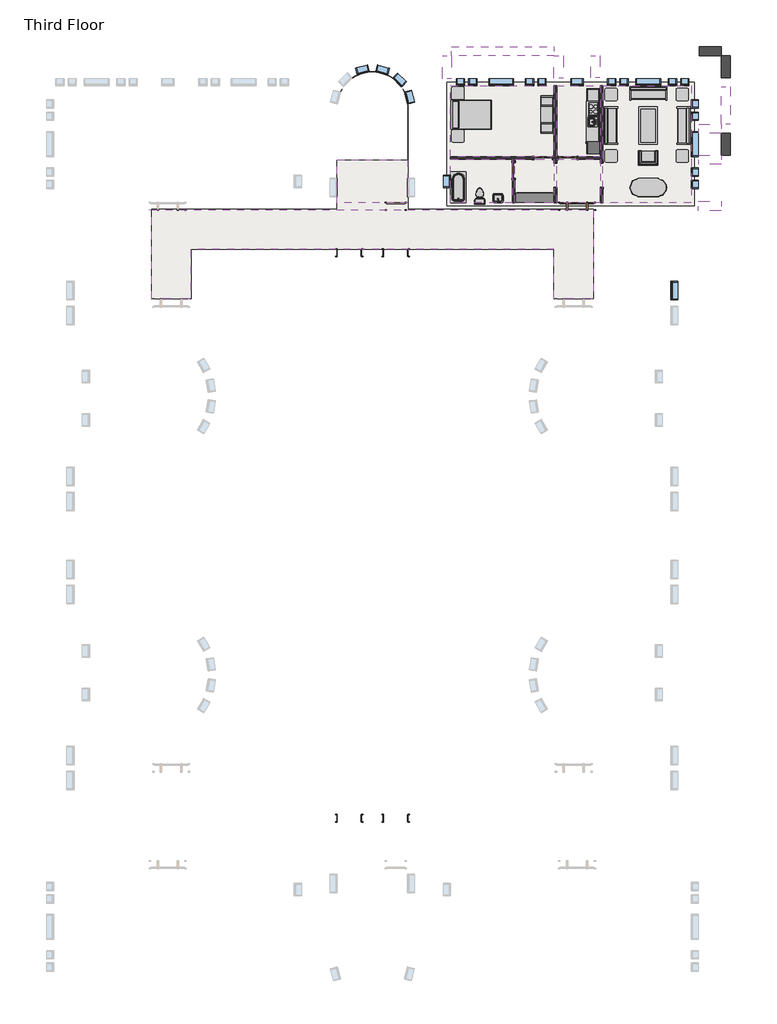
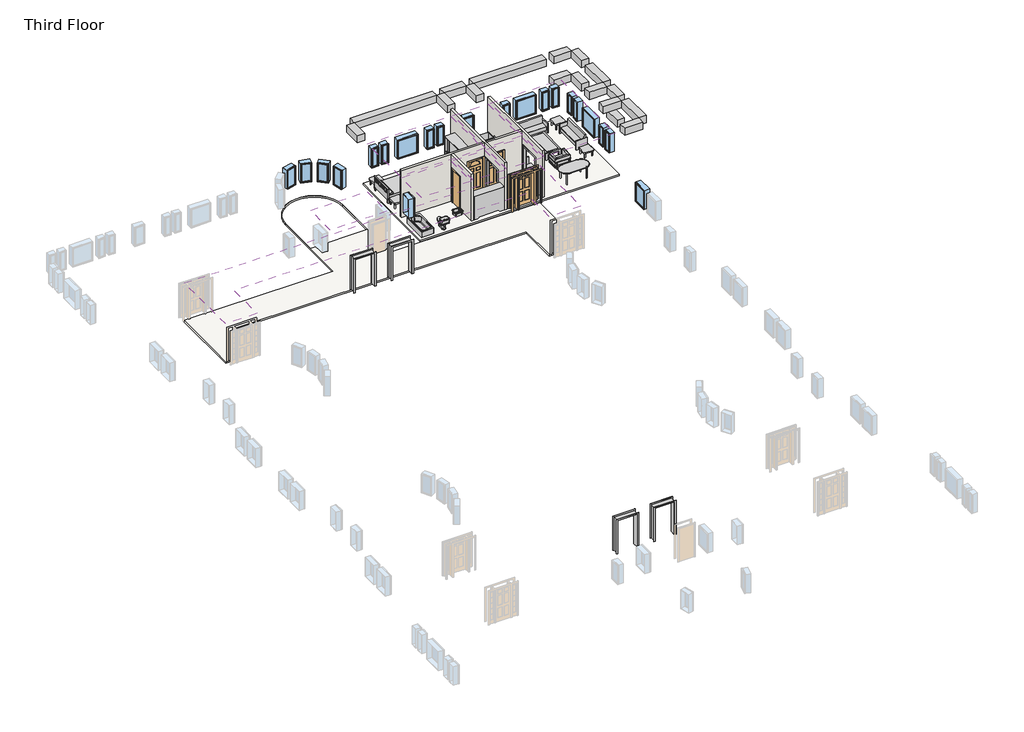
# One storey, part 2 of 2: 22 windows, 15 furniture elements, 11 beams, 8 coverings, 7 proxies, 5 walls, 4 doors, 3 flow terminals, 2 slabs.
"""IFC4 building model written with IfcOpenShell, lengths in millimetres."""

from ifc_helpers import new_model, si_unit, point, frame, frame_2d, origin, place, context, project, spatial, polyline, circle_curve, trimmed, segment, composite_curve, outline, extrude, faceted_brep, transform, mapped, element, save
from components import proxy_64a468c4, proxy_f44482cc, proxy_c3589814, proxy_1659ed5c, door_829da954, door_2e3b4da2, door_4d6c7550, door_dba5aa2e, flow_terminal_0aeb31e3, toilet_domestic_3d_toilet_domestic_3d_f7549cf7, toilet_domestic_3d_toilet_domestic_3d_183bbd19, tub_rectangular_3d_tub_rectangular_3d_5e45a89b, furniture_096e7f55, chair_corbu_chair_corbu_2764bdef, furniture_7c473f12, furniture_ddc78764, furniture_4ef38d96, furniture_cd93a443, furniture_2c34a4f9, furniture_3a588284, furniture_1befe2a2, window_da97879f, window_d61ef850, window_60baf983, window_0e2fc6ce, window_6eb97611

model = new_model("IFC4")

# Units and contexts
model_context = context("Model", 3, world=origin())
ifc_project = project(units=[si_unit("LENGTHUNIT", "METRE", prefix="MILLI")], contexts=[model_context])

# Site, building, storey
site = spatial("IfcSite", under=ifc_project)
building = spatial("IfcBuilding", under=site)
storey = spatial("IfcBuildingStorey", under=building, Name="Third Floor", Elevation=6096.0)

# Beams
placement = place(None, origin())
element("IfcBeam", 1, ObjectType="Concrete-Rectangular Beam : 18 x 18", at=placement, inside=storey, context=model_context, shape_type="SweptSolid", body=[
    extrude(outline(polyline([(2093.9410437, 12198.8316867), (2093.9410437, 11741.6316867), (1027.1410437, 11741.6316867), (1027.1410437, 12198.8316867), (2093.9410437, 12198.8316867)])), frame((0.0, 0.0, 8686.8), z_axis=(0.0, 0.0, 1.0), x_axis=(1.0, 0.0, 0.0)), (0.0, 0.0, 1.0), 457.2),
    extrude(outline(polyline([(569.9410437, 12198.8316867), (569.9410437, 11741.6316867), (-3862.3589563, 11741.6316867), (-3862.3589563, 12198.8316867), (569.9410437, 12198.8316867)])), frame((0.0, 0.0, 8686.8), z_axis=(0.0, 0.0, 1.0), x_axis=(1.0, 0.0, 0.0)), (0.0, 0.0, 1.0), 457.2),
    extrude(outline(polyline([(-5665.7589563, 11741.6316867), (-5665.7589563, 12198.8316867), (-4319.5589563, 12198.8316867), (-4319.5589563, 11741.6316867), (-5665.7589563, 11741.6316867)])), frame((0.0, 0.0, 8686.8), z_axis=(0.0, 0.0, 1.0), x_axis=(1.0, 0.0, 0.0)), (0.0, 0.0, 1.0), 457.2),
    extrude(outline(polyline([(-6122.9589563, 12198.8316867), (-6122.9589563, 11741.6316867), (-11164.8589563, 11741.6316867), (-11164.8589563, 12198.8316867), (-6122.9589563, 12198.8316867)])), frame((0.0, 0.0, 8686.8), z_axis=(0.0, 0.0, 1.0), x_axis=(1.0, 0.0, 0.0)), (0.0, 0.0, 1.0), 457.2),
])
element("IfcBeam", 2, ObjectType="Concrete-Rectangular Beam : 18 x 18", at=placement, inside=storey, context=model_context, shape_type="SweptSolid", body=[
    extrude(outline(polyline([(2093.9410437, 11741.6316867), (2551.1410437, 11741.6316867), (2551.1410437, 10674.8316867), (2093.9410437, 10674.8316867), (2093.9410437, 11741.6316867)])), frame((0.0, 0.0, 8686.8), z_axis=(0.0, 0.0, 1.0), x_axis=(1.0, 0.0, 0.0)), (0.0, 0.0, 1.0), 457.2),
    extrude(outline(polyline([(2551.1410437, 4578.8316867), (2093.9410437, 4578.8316867), (2093.9410437, 6407.6316867), (2551.1410437, 6407.6316867), (2551.1410437, 4578.8316867)])), frame((0.0, 0.0, 8686.8), z_axis=(0.0, 0.0, 1.0), x_axis=(1.0, 0.0, 0.0)), (0.0, 0.0, 1.0), 457.2),
    extrude(outline(polyline([(2551.1410437, 6864.8316867), (2093.9410437, 6864.8316867), (2093.9410437, 7931.6316867), (2551.1410437, 7931.6316867), (2551.1410437, 6864.8316867)])), frame((0.0, 0.0, 8686.8), z_axis=(0.0, 0.0, 1.0), x_axis=(1.0, 0.0, 0.0)), (0.0, 0.0, 1.0), 457.2),
    extrude(outline(polyline([(2093.9410437, 10217.6316867), (2551.1410437, 10217.6316867), (2551.1410437, 8388.8316867), (2093.9410437, 8388.8316867), (2093.9410437, 10217.6316867)])), frame((0.0, 0.0, 8686.8), z_axis=(0.0, 0.0, 1.0), x_axis=(1.0, 0.0, 0.0)), (0.0, 0.0, 1.0), 457.2),
])
element("IfcBeam", 3, ObjectType="Concrete-Rectangular Beam : 18 x 18", at=placement, inside=storey, context=model_context, shape_type="SweptSolid", body=[
    extrude(outline(polyline([(2093.9410437, 12198.8316867), (2093.9410437, 11741.6316867), (1027.1410437, 11741.6316867), (1027.1410437, 12198.8316867), (2093.9410437, 12198.8316867)])), frame((0.0, 0.0, 7162.8), z_axis=(0.0, 0.0, 1.0), x_axis=(1.0, 0.0, 0.0)), (0.0, 0.0, 1.0), 457.2),
])
element("IfcBeam", 4, ObjectType="Concrete-Rectangular Beam : 18 x 18", at=placement, inside=storey, context=model_context, shape_type="SweptSolid", body=[
    extrude(outline(polyline([(2551.1410437, 10674.8316867), (2093.9410437, 10674.8316867), (2093.9410437, 11741.6316867), (2551.1410437, 11741.6316867), (2551.1410437, 10674.8316867)])), frame((0.0, 0.0, 7162.8), z_axis=(0.0, 0.0, 1.0), x_axis=(1.0, 0.0, 0.0)), (0.0, 0.0, 1.0), 457.2),
])
element("IfcBeam", 5, ObjectType="Concrete-Rectangular Beam : 18 x 18", at=placement, inside=storey, context=model_context, shape_type="SweptSolid", body=[
    extrude(outline(polyline([(-11164.8589563, 10624.0316867), (-11622.0589563, 10624.0316867), (-11622.0589563, 11741.6316867), (-11164.8589563, 11741.6316867), (-11164.8589563, 10624.0316867)])), frame((0.0, 0.0, 8686.8), z_axis=(0.0, 0.0, 1.0), x_axis=(1.0, 0.0, 0.0)), (0.0, 0.0, 1.0), 457.2),
])
element("IfcBeam", 6, ObjectType="Concrete-Rectangular Beam : 18 x 18", at=placement, inside=storey, context=model_context, shape_type="SweptSolid", body=[
    extrude(outline(polyline([(-5665.7589563, 10643.0816867), (-6122.9589563, 10643.0816867), (-6122.9589563, 11741.6316867), (-5665.7589563, 11741.6316867), (-5665.7589563, 10643.0816867)])), frame((0.0, 0.0, 8686.8), z_axis=(0.0, 0.0, 1.0), x_axis=(1.0, 0.0, 0.0)), (0.0, 0.0, 1.0), 457.2),
])
element("IfcBeam", 7, ObjectType="Concrete-Rectangular Beam : 18 x 18", at=placement, inside=storey, context=model_context, shape_type="SweptSolid", body=[
    extrude(outline(polyline([(1001.7410437, 6407.6316867), (1001.7410437, 6864.8316867), (2093.9410437, 6864.8316867), (2093.9410437, 6407.6316867), (1001.7410437, 6407.6316867)])), frame((0.0, 0.0, 8686.8), z_axis=(0.0, 0.0, 1.0), x_axis=(1.0, 0.0, 0.0)), (0.0, 0.0, 1.0), 457.2),
])
element("IfcBeam", 8, ObjectType="Concrete-Rectangular Beam : 18 x 18", at=placement, inside=storey, context=model_context, shape_type="SweptSolid", body=[
    extrude(outline(polyline([(-3862.3589563, 10674.8316867), (-4319.5589563, 10674.8316867), (-4319.5589563, 11741.6316867), (-3862.3589563, 11741.6316867), (-3862.3589563, 10674.8316867)])), frame((0.0, 0.0, 8686.8), z_axis=(0.0, 0.0, 1.0), x_axis=(1.0, 0.0, 0.0)), (0.0, 0.0, 1.0), 457.2),
])
element("IfcBeam", 9, ObjectType="Concrete-Rectangular Beam : 18 x 18", at=placement, inside=storey, context=model_context, shape_type="SweptSolid", body=[
    extrude(outline(polyline([(1001.7410437, 7931.6316867), (1001.7410437, 8388.8316867), (2093.9410437, 8388.8316867), (2093.9410437, 7931.6316867), (1001.7410437, 7931.6316867)])), frame((0.0, 0.0, 8686.8), z_axis=(0.0, 0.0, 1.0), x_axis=(1.0, 0.0, 0.0)), (0.0, 0.0, 1.0), 457.2),
])
element("IfcBeam", 10, ObjectType="Concrete-Rectangular Beam : 18 x 18", at=placement, inside=storey, context=model_context, shape_type="SweptSolid", body=[
    extrude(outline(polyline([(976.3410437, 4121.6316867), (976.3410437, 4578.8316867), (2093.9410437, 4578.8316867), (2093.9410437, 4121.6316867), (976.3410437, 4121.6316867)])), frame((0.0, 0.0, 8686.8), z_axis=(0.0, 0.0, 1.0), x_axis=(1.0, 0.0, 0.0)), (0.0, 0.0, 1.0), 457.2),
])
element("IfcBeam", 11, ObjectType="Concrete-Rectangular Beam : 18 x 18", at=placement, inside=storey, context=model_context, shape_type="SweptSolid", body=[
    extrude(outline(polyline([(2551.1410437, 6864.8316867), (2093.9410437, 6864.8316867), (2093.9410437, 7931.6316867), (2551.1410437, 7931.6316867), (2551.1410437, 6864.8316867)])), frame((0.0, 0.0, 7162.8), z_axis=(0.0, 0.0, 1.0), x_axis=(1.0, 0.0, 0.0)), (0.0, 0.0, 1.0), 457.2),
])

# Proxies
proxy_shape = proxy_64a468c4(model_context)
element("IfcBuildingElementProxy", 12, Name="Kitchenette - Medium : 8'6\"", ObjectType="Kitchenette - Medium : 8'6\"", at=placement, inside=storey, context=model_context, shape_type="MappedRepresentation", body=[
    mapped(proxy_shape, transform((-3887.7589563, 8837.7956433, 6096.0), x_axis=(0.0, -1.0, 0.0), y_axis=(1.0, 0.0, 0.0), z_axis=(0.0, 0.0, 1.0))),
])
proxy_2_shape = proxy_f44482cc(model_context)
element("IfcBuildingElementProxy", 13, Name="Opening-Cased : 48\" x 84\"", ObjectType="Opening-Cased : 48\" x 84\"", at=placement, inside=storey, context=model_context, shape_type="MappedRepresentation", body=[
    mapped(proxy_2_shape, transform((-3773.4589563, 5882.4203434, 6096.0), x_axis=(0.0, 1.0, 0.0), y_axis=(-1.0, 0.0, 0.0), z_axis=(0.0, 0.0, 1.0))),
])
element("IfcBuildingElementProxy", 14, Name="Opening-Cased : 48\" x 84\"", ObjectType="Opening-Cased : 48\" x 84\"", at=placement, inside=storey, context=model_context, shape_type="MappedRepresentation", body=[
    mapped(proxy_2_shape, transform((-6059.4589563, 5866.04303, 6096.0), x_axis=(0.0, -1.0, 0.0), y_axis=(1.0, 0.0, 0.0), z_axis=(0.0, 0.0, 1.0))),
])
proxy_3_shape = proxy_c3589814(model_context)
element("IfcBuildingElementProxy", 15, Name="Opening-Cased : 48\" x 84\"", ObjectType="Opening-Cased : 48\" x 84\"", at=placement, inside=storey, context=model_context, shape_type="MappedRepresentation", body=[
    mapped(proxy_3_shape, transform((-16213.360113, 2064.2316867, 6096.0), x_axis=(-1.0, 0.0, 0.0), y_axis=(0.0, -1.0, 0.0), z_axis=(0.0, 0.0, 1.0))),
])
element("IfcBuildingElementProxy", 16, Name="Opening-Cased : 48\" x 84\"", ObjectType="Opening-Cased : 48\" x 84\"", at=placement, inside=storey, context=model_context, shape_type="MappedRepresentation", body=[
    mapped(proxy_3_shape, transform((-13927.360113, 2064.2316867, 6096.0), x_axis=(-1.0, 0.0, 0.0), y_axis=(0.0, -1.0, 0.0), z_axis=(0.0, 0.0, 1.0))),
])
proxy_4_shape = proxy_1659ed5c(model_context)
element("IfcBuildingElementProxy", 17, Name="Opening-Cased : 48\" x 84\"", ObjectType="Opening-Cased : 48\" x 84\"", at=placement, inside=storey, context=model_context, shape_type="MappedRepresentation", body=[
    mapped(proxy_4_shape, transform((-16213.360113, -25755.1183133, 6096.0), x_axis=(-1.0, 0.0, 0.0), y_axis=(0.0, -1.0, 0.0), z_axis=(0.0, 0.0, 1.0))),
])
element("IfcBuildingElementProxy", 18, Name="Opening-Cased : 48\" x 84\"", ObjectType="Opening-Cased : 48\" x 84\"", at=placement, inside=storey, context=model_context, shape_type="MappedRepresentation", body=[
    mapped(proxy_4_shape, transform((-13927.360113, -25755.1183133, 6096.0), x_axis=(-1.0, 0.0, 0.0), y_axis=(0.0, -1.0, 0.0), z_axis=(0.0, 0.0, 1.0))),
])

# Coverings
element("IfcCovering", 19, ObjectType="GWB on Mtl. Stud", at=placement, inside=storey, context=model_context, shape_type="SweptSolid", body=[
    extrude(outline(polyline([(-11217.2464563, 10270.0191867), (-6122.9589563, 10270.0191867), (-6122.9589563, 6787.0441867), (-11217.2464563, 6787.0441867), (-11217.2464563, 10270.0191867)])), frame((0.0, 0.0, 8686.8), z_axis=(0.0, 0.0, 1.0), x_axis=(1.0, 0.0, 0.0)), (0.0, 0.0, 1.0), 107.95),
])
element("IfcCovering", 20, ObjectType="GWB on Mtl. Stud", at=placement, inside=storey, context=model_context, shape_type="SweptSolid", body=[
    extrude(outline(polyline([(-5995.9589563, 6787.0441867), (-5995.9589563, 10270.0191867), (-3836.9589563, 10270.0191867), (-3836.9589563, 6787.0441867), (-5995.9589563, 6787.0441867)])), frame((0.0, 0.0, 8686.8), z_axis=(0.0, 0.0, 1.0), x_axis=(1.0, 0.0, 0.0)), (0.0, 0.0, 1.0), 107.95),
])
element("IfcCovering", 21, ObjectType="GWB on Mtl. Stud", at=placement, inside=storey, context=model_context, shape_type="SweptSolid", body=[
    extrude(outline(polyline([(-3709.9589563, 4526.4441867), (-3709.9589563, 10270.0191867), (622.3285437, 10270.0191867), (622.3285437, 4526.4441867), (-3709.9589563, 4526.4441867)])), frame((0.0, 0.0, 8686.8), z_axis=(0.0, 0.0, 1.0), x_axis=(1.0, 0.0, 0.0)), (0.0, 0.0, 1.0), 107.95),
])
element("IfcCovering", 22, ObjectType="GWB on Mtl. Stud", at=placement, inside=storey, context=model_context, shape_type="SweptSolid", body=[
    extrude(outline(polyline([(-3836.9589563, 4526.4441867), (-5995.9589563, 4526.4441867), (-5995.9589563, 6660.0441867), (-3836.9589563, 6660.0441867), (-3836.9589563, 4526.4441867)])), frame((0.0, 0.0, 8686.8), z_axis=(0.0, 0.0, 1.0), x_axis=(1.0, 0.0, 0.0)), (0.0, 0.0, 1.0), 107.95),
])
element("IfcCovering", 23, ObjectType="GWB on Mtl. Stud", at=placement, inside=storey, context=model_context, shape_type="SweptSolid", body=[
    extrude(outline(polyline([(-6122.9589563, 4526.4441867), (-8042.2464563, 4526.4441867), (-8042.2464563, 6660.0441867), (-6122.9589563, 6660.0441867), (-6122.9589563, 4526.4441867)])), frame((0.0, 0.0, 8686.8), z_axis=(0.0, 0.0, 1.0), x_axis=(1.0, 0.0, 0.0)), (0.0, 0.0, 1.0), 107.95),
])
element("IfcCovering", 24, ObjectType="GWB on Mtl. Stud", at=placement, inside=storey, context=model_context, shape_type="SweptSolid", body=[
    extrude(outline(polyline([(-8169.2464563, 6660.0441867), (-8169.2464563, 4526.4441867), (-11217.2464563, 4526.4441867), (-11217.2464563, 6660.0441867), (-8169.2464563, 6660.0441867)])), frame((0.0, 0.0, 8686.8), z_axis=(0.0, 0.0, 1.0), x_axis=(1.0, 0.0, 0.0)), (0.0, 0.0, 1.0), 107.95),
])
element("IfcCovering", 25, ObjectType="GWB on Mtl. Stud", at=placement, inside=storey, context=model_context, shape_type="SweptSolid", body=[
    extrude(outline(polyline([(-13333.3839563, 4526.4441867), (-16790.9589563, 4526.4441867), (-16790.9589563, 6636.2316867), (-13333.3839563, 6636.2316867), (-13333.3839563, 4526.4441867)])), frame((0.0, 0.0, 8534.4), z_axis=(0.0, 0.0, 1.0), x_axis=(1.0, 0.0, 0.0)), (0.0, 0.0, 1.0), 107.95),
])
element("IfcCovering", 26, ObjectType="GWB on Mtl. Stud", at=placement, inside=storey, context=model_context, shape_type="SweptSolid", body=[
    extrude(outline(polyline([(-6122.9589563, -197.9558133), (-6122.9589563, 2240.4441867), (-24001.3839563, 2240.4441867), (-24001.3839563, -197.9558133), (-25934.9589563, -197.9558133), (-25934.9589563, 4174.0191867), (-4189.3839563, 4174.0191867), (-4189.3839563, -197.9558133), (-6122.9589563, -197.9558133)])), frame((0.0, 0.0, 8534.4), z_axis=(0.0, 0.0, 1.0), x_axis=(1.0, 0.0, 0.0)), (0.0, 0.0, 1.0), 107.95),
])

# Doors
door_shape = door_829da954(model_context)
element("IfcDoor", 27, ObjectType="Single-Decorative 2 : 36\" x 84\"", at=placement, inside=storey, context=model_context, shape_type="MappedRepresentation", body=[
    mapped(door_shape, transform((-5449.8589563, 6723.5441867, 6096.0), x_axis=(-1.0, 0.0, 0.0), y_axis=(0.0, -1.0, 0.0), z_axis=(0.0, 0.0, 1.0))),
])
door_2_shape = door_2e3b4da2(model_context)
element("IfcDoor", 28, ObjectType="Single-Decorative 2 : 36\" x 84\"", at=placement, inside=storey, context=model_context, shape_type="MappedRepresentation", body=[
    mapped(door_2_shape, transform((-6669.0589563, 6723.5441867, 6096.0), x_axis=(1.0, 0.0, 0.0), y_axis=(0.0, 1.0, 0.0), z_axis=(0.0, 0.0, 1.0))),
])
door_3_shape = door_4d6c7550(model_context)
element("IfcDoor", 29, ObjectType="Single-Flush : 30\" x 84\"", at=placement, inside=storey, context=model_context, shape_type="MappedRepresentation", body=[
    mapped(door_3_shape, transform((-8105.7464563, 6113.9441867, 6096.0), x_axis=(0.0, 1.0, 0.0), y_axis=(-1.0, 0.0, 0.0), z_axis=(0.0, 0.0, 1.0))),
])
door_4_shape = door_dba5aa2e(model_context)
element("IfcDoor", 30, ObjectType="Single-Raised Panel with Sidelights : 36\" x 84\"", at=placement, inside=storey, context=model_context, shape_type="MappedRepresentation", body=[
    mapped(door_4_shape, transform((-4992.6589563, 4350.2316867, 6096.0), x_axis=(-1.0, 0.0, 0.0), y_axis=(0.0, -1.0, 0.0), z_axis=(0.0, 0.0, 1.0))),
])

# Flow terminals
flow_terminal_shape = flow_terminal_0aeb31e3(model_context)
element("IfcFlowTerminal", 31, ObjectType="Sink Vanity-Square : 24\" x 19\"", at=placement, inside=storey, context=model_context, shape_type="MappedRepresentation", body=[
    mapped(flow_terminal_shape, transform((-8864.7572157, 4706.5895878, 6096.0), x_axis=(-1.0, 0.0, 0.0), y_axis=(0.0, -1.0, 0.0), z_axis=(0.0, 0.0, 1.0))),
])
toilet_domestic_3d_toilet_domestic_3d_shape = toilet_domestic_3d_toilet_domestic_3d_f7549cf7(model_context)
toilet_domestic_3d_toilet_domestic_3d_2_shape = toilet_domestic_3d_toilet_domestic_3d_183bbd19(model_context)
element("IfcFlowTerminal", 32, ObjectType="Toilet-Domestic-3D : Toilet-Domestic-3D", at=placement, inside=storey, context=model_context, shape_type="MappedRepresentation", body=[
    mapped(toilet_domestic_3d_toilet_domestic_3d_shape, transform((-9782.1466587, 4940.866411, 6096.0), x_axis=(-1.0000000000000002, 0.0, 0.0), y_axis=(0.0, -1.0000000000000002, 0.0), z_axis=(0.0, 0.0, 1.0))),
    mapped(toilet_domestic_3d_toilet_domestic_3d_2_shape, transform((-9782.1466587, 4940.866411, 6096.0), x_axis=(-1.0000000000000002, 0.0, 0.0), y_axis=(0.0, -1.0000000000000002, 0.0), z_axis=(0.0, 0.0, 1.0))),
])
tub_rectangular_3d_tub_rectangular_3d_shape = tub_rectangular_3d_tub_rectangular_3d_5e45a89b(model_context)
element("IfcFlowTerminal", 33, ObjectType="Tub-Rectangular-3D : Tub-Rectangular-3D", at=placement, inside=storey, context=model_context, shape_type="MappedRepresentation", body=[
    mapped(tub_rectangular_3d_tub_rectangular_3d_shape, transform((-11393.4589563, 5637.0471554, 6096.0), x_axis=(0.0, 1.0, 0.0), y_axis=(-1.0, 0.0, 0.0), z_axis=(0.0, 0.0, 1.0))),
])

# Furniture
furniture_shape = furniture_096e7f55(model_context)
element("IfcFurniture", 34, ObjectType="Bed-Shaker : Double 56\" x 78\"", at=placement, inside=storey, context=model_context, shape_type="MappedRepresentation", body=[
    mapped(furniture_shape, transform((-11183.1982802, 8871.8755561, 6096.0), x_axis=(0.0, 1.0, 0.0), y_axis=(-1.0, 0.0, 0.0), z_axis=(0.0, 0.0, 1.0))),
])
chair_corbu_chair_corbu_shape = chair_corbu_chair_corbu_2764bdef(model_context)
element("IfcFurniture", 35, ObjectType="Chair-Corbu : Chair-Corbu", at=placement, inside=storey, context=model_context, shape_type="MappedRepresentation", body=[
    mapped(chair_corbu_chair_corbu_shape, transform((-914.0851858, 7193.4962359, 6096.0), x_axis=(-1.0, 0.0, 0.0), y_axis=(0.0, -1.0, 0.0), z_axis=(0.0, 0.0, 1.0))),
])
furniture_2_shape = furniture_7c473f12(model_context)
element("IfcFurniture", 36, ObjectType="Dresser : 72\" x 60\" x 18\"", at=placement, inside=storey, context=model_context, shape_type="MappedRepresentation", body=[
    mapped(furniture_2_shape, transform((-7344.6522161, 4404.5812326, 6096.0), x_axis=(-1.0, 0.0, 0.0), y_axis=(0.0, -1.0, 0.0), z_axis=(0.0, 0.0, 1.0))),
])
furniture_3_shape = furniture_ddc78764(model_context)
element("IfcFurniture", 37, ObjectType="Entertainment Center : 72\" x 72\" x 24\"", at=placement, inside=storey, context=model_context, shape_type="MappedRepresentation", body=[
    mapped(furniture_3_shape, transform((-6059.4589563, 8852.8255561, 6096.0), x_axis=(0.0, -1.0, 0.0), y_axis=(1.0, 0.0, 0.0), z_axis=(0.0, 0.0, 1.0))),
])
furniture_4_shape = furniture_4ef38d96(model_context)
element("IfcFurniture", 38, ObjectType="Sofa : 72\"", at=placement, inside=storey, context=model_context, shape_type="MappedRepresentation", body=[
    mapped(furniture_4_shape, transform((-1557.8294481, 9741.2775883, 6096.0), x_axis=(1.0, 0.0, 0.0), y_axis=(0.0, 1.0, 0.0), z_axis=(0.0, 0.0, 1.0))),
])
element("IfcFurniture", 39, ObjectType="Sofa : 72\"", at=placement, inside=storey, context=model_context, shape_type="MappedRepresentation", body=[
    mapped(furniture_4_shape, transform((93.5869453, 8383.0021785, 6096.0), x_axis=(0.0, -1.0, 0.0), y_axis=(1.0, 0.0, 0.0), z_axis=(0.0, 0.0, 1.0))),
])
element("IfcFurniture", 40, ObjectType="Sofa : 72\"", at=placement, inside=storey, context=model_context, shape_type="MappedRepresentation", body=[
    mapped(furniture_4_shape, transform((-3170.104858, 8242.2611949, 6096.0), x_axis=(0.0, 1.0, 0.0), y_axis=(-1.0, 0.0, 0.0), z_axis=(0.0, 0.0, 1.0))),
])
furniture_5_shape = furniture_cd93a443(model_context)
element("IfcFurniture", 41, ObjectType="Table-Coffee : 36\" x 72\" x 18\"", at=placement, inside=storey, context=model_context, shape_type="MappedRepresentation", body=[
    mapped(furniture_5_shape, transform((-1582.6700341, 8330.8974534, 6096.0), x_axis=(0.0, -1.0, 0.0), y_axis=(1.0, 0.0, 0.0), z_axis=(0.0, 0.0, 1.0))),
])
furniture_6_shape = furniture_2c34a4f9(model_context)
element("IfcFurniture", 42, ObjectType="Table-Dining Oval : 36\" x 72\"", at=placement, inside=storey, context=model_context, shape_type="MappedRepresentation", body=[
    mapped(furniture_6_shape, transform((-1085.6392842, 5622.7300473, 6096.0), x_axis=(1.0, 0.0, 0.0), y_axis=(0.0, 1.0, 0.0), z_axis=(0.0, 0.0, 1.0))),
])
furniture_7_shape = furniture_3a588284(model_context)
element("IfcFurniture", 43, ObjectType="Table-End : 24\" x 24\"", at=placement, inside=storey, context=model_context, shape_type="MappedRepresentation", body=[
    mapped(furniture_7_shape, transform((-119.5925866, 9684.2316867, 6096.0), x_axis=(1.0, 0.0, 0.0), y_axis=(0.0, 1.0, 0.0), z_axis=(0.0, 0.0, 1.0))),
])
element("IfcFurniture", 44, ObjectType="Table-End : 24\" x 24\"", at=placement, inside=storey, context=model_context, shape_type="MappedRepresentation", body=[
    mapped(furniture_7_shape, transform((-3624.7925866, 9684.2316867, 6096.0), x_axis=(1.0, 0.0, 0.0), y_axis=(0.0, 1.0, 0.0), z_axis=(0.0, 0.0, 1.0))),
])
element("IfcFurniture", 45, ObjectType="Table-End : 24\" x 24\"", at=placement, inside=storey, context=model_context, shape_type="MappedRepresentation", body=[
    mapped(furniture_7_shape, transform((-3624.7925866, 6660.0441867, 6096.0), x_axis=(1.0, 0.0, 0.0), y_axis=(0.0, 1.0, 0.0), z_axis=(0.0, 0.0, 1.0))),
])
element("IfcFurniture", 46, ObjectType="Table-End : 24\" x 24\"", at=placement, inside=storey, context=model_context, shape_type="MappedRepresentation", body=[
    mapped(furniture_7_shape, transform((-119.5925866, 6660.0441867, 6096.0), x_axis=(1.0, 0.0, 0.0), y_axis=(0.0, 1.0, 0.0), z_axis=(0.0, 0.0, 1.0))),
])
element("IfcFurniture", 47, ObjectType="Table-End : 24\" x 24\"", at=placement, inside=storey, context=model_context, shape_type="MappedRepresentation", body=[
    mapped(furniture_7_shape, transform((-11164.2346356, 9756.0737357, 6096.0), x_axis=(1.0, 0.0, 0.0), y_axis=(0.0, 1.0, 0.0), z_axis=(0.0, 0.0, 1.0))),
])
furniture_8_shape = furniture_1befe2a2(model_context)
element("IfcFurniture", 48, ObjectType="Table-End : 24\" x 24\"", at=placement, inside=storey, context=model_context, shape_type="MappedRepresentation", body=[
    mapped(furniture_8_shape, transform((-11164.2346356, 7949.5773764, 6096.0), x_axis=(1.0, 0.0, 0.0), y_axis=(0.0, 1.0, 0.0), z_axis=(0.0, 0.0, 1.0))),
])

# Slabs
element("IfcSlab", 49, ObjectType="LW Concrete on Metal Deck", at=placement, inside=storey, context=model_context, shape_type="SweptSolid", body=[
    extrude(outline(polyline([(787.4285437, 10435.1191867), (787.4285437, 4361.3441867), (-11382.3464563, 4361.3441867), (-11382.3464563, 10435.1191867), (787.4285437, 10435.1191867)])), frame((0.0, 0.0, 5991.225), z_axis=(0.0, 0.0, 1.0), x_axis=(1.0, 0.0, 0.0)), (0.0, 0.0, 1.0), 104.775),
])
element("IfcSlab", 50, ObjectType="LW Concrete on Metal Deck", at=placement, inside=storey, context=model_context, shape_type="SweptSolid", body=[
    extrude(outline(composite_curve([segment(polyline([(-13320.6839563, 9227.0316867), (-13320.6839563, 4186.7191867), (-4189.3839563, 4186.7191867), (-4189.3839563, -197.9558133), (-6135.6589563, -197.9558133), (-6135.6589563, 2227.7441867), (-23988.6839563, 2227.7441867), (-23988.6839563, -197.9558133), (-25934.9589563, -197.9558133), (-25934.9589563, 4186.7191867), (-16803.6589563, 4186.7191867), (-16803.6589563, 9227.0316867)]), True, "CONTINUOUS"), segment(trimmed(circle_curve(frame_2d((-15062.1714563, 9227.0316867)), 1741.4875), [point((-16803.6589563, 9227.0316867))], [point((-13320.6839563, 9227.0316867))], False, "CARTESIAN"), True, "CONTINUOUS")], self_intersect=False), holes=[composite_curve([segment(polyline([(-16790.9589563, 6636.2316867), (-13333.3839563, 6636.2316867), (-13333.3839563, 9227.0316867)]), True, "CONTINUOUS"), segment(trimmed(circle_curve(frame_2d((-15062.1714563, 9227.0316867)), 1728.7875), [point((-13333.3839563, 9227.0316867))], [point((-16790.9589563, 9227.0316867))], True, "CARTESIAN"), True, "CONTINUOUS"), segment(polyline([(-16790.9589563, 9227.0316867), (-16790.9589563, 6636.2316867)]), True, "CONTINUOUS")], self_intersect=False)]), frame((0.0, 0.0, 5991.225), z_axis=(0.0, 0.0, 1.0), x_axis=(1.0, 0.0, 0.0)), (0.0, 0.0, 1.0), 104.775),
])

# Walls
element("IfcWall", 51, ObjectType="Interior - 5\" Partition (2-hr)", at=placement, inside=storey, context=model_context, shape_type="Brep", body=[
    faceted_brep([(-3836.9589563, 10270.0191867, 6096.0), (-3836.9589563, 6787.0441867, 6096.0), (-3836.9589563, 6660.0441867, 6096.0), (-3836.9589563, 6483.8316867, 6096.0), (-3836.9589563, 6483.8316867, 8229.6), (-3836.9589563, 5264.6316867, 8229.6), (-3836.9589563, 5264.6316867, 6096.0), (-3836.9589563, 4526.4441867, 6096.0), (-3836.9589563, 4526.4441867, 9144.0), (-3836.9589563, 6660.0441867, 9144.0), (-3836.9589563, 6787.0441867, 9144.0), (-3836.9589563, 10270.0191867, 9144.0), (-3709.9589563, 6483.8316867, 8229.6), (-3709.9589563, 6483.8316867, 6096.0), (-3709.9589563, 10270.0191867, 6096.0), (-3709.9589563, 10270.0191867, 9144.0), (-3709.9589563, 4526.4441867, 9144.0), (-3709.9589563, 4526.4441867, 6096.0), (-3709.9589563, 5264.6316867, 6096.0), (-3709.9589563, 5264.6316867, 8229.6)], [[[0, 1, 2, 3, 4, 5, 6, 7, 8, 9, 10, 11]], [[12, 13, 14, 15, 16, 17, 18, 19]], [[14, 13, 3, 2, 1, 0]], [[18, 17, 7, 6]], [[11, 10, 9, 8, 16, 15]], [[0, 11, 15, 14]], [[8, 7, 17, 16]], [[6, 5, 19, 18]], [[4, 3, 13, 12]], [[5, 4, 12, 19]]]),
])
element("IfcWall", 52, ObjectType="Interior - 5\" Partition (2-hr)", at=placement, inside=storey, context=model_context, shape_type="Brep", body=[
    faceted_brep([(-6122.9589563, 5264.6316867, 8229.6), (-6122.9589563, 5264.6316867, 6096.0), (-6122.9589563, 4526.4441867, 6096.0), (-6122.9589563, 4526.4441867, 9144.0), (-6122.9589563, 6660.0441867, 9144.0), (-6122.9589563, 6787.0441867, 9144.0), (-6122.9589563, 10270.0191867, 9144.0), (-6122.9589563, 10270.0191867, 6096.0), (-6122.9589563, 6787.0441867, 6096.0), (-6122.9589563, 6660.0441867, 6096.0), (-6122.9589563, 6483.8316867, 6096.0), (-6122.9589563, 6483.8316867, 8229.6), (-5995.9589563, 4526.4441867, 6096.0), (-5995.9589563, 5264.6316867, 6096.0), (-5995.9589563, 5264.6316867, 8229.6), (-5995.9589563, 6483.8316867, 8229.6), (-5995.9589563, 6483.8316867, 6096.0), (-5995.9589563, 6660.0441867, 6096.0), (-5995.9589563, 6787.0441867, 6096.0), (-5995.9589563, 10270.0191867, 6096.0), (-5995.9589563, 10270.0191867, 9144.0), (-5995.9589563, 6787.0441867, 9144.0), (-5995.9589563, 6660.0441867, 9144.0), (-5995.9589563, 4526.4441867, 9144.0)], [[[0, 1, 2, 3, 4, 5, 6, 7, 8, 9, 10, 11]], [[12, 13, 14, 15, 16, 17, 18, 19, 20, 21, 22, 23]], [[2, 1, 13, 12]], [[10, 9, 8, 7, 19, 18, 17, 16]], [[6, 5, 4, 3, 23, 22, 21, 20]], [[7, 6, 20, 19]], [[3, 2, 12, 23]], [[16, 15, 11, 10]], [[14, 13, 1, 0]], [[15, 14, 0, 11]]]),
])
element("IfcWall", 53, ObjectType="Interior - 5\" Partition (2-hr)", at=placement, inside=storey, context=model_context, shape_type="Brep", body=[
    faceted_brep([(-6211.8589563, 6660.0441867, 8229.6), (-6211.8589563, 6660.0441867, 6096.0), (-6122.9589563, 6660.0441867, 6096.0), (-6122.9589563, 6660.0441867, 9144.0), (-8042.2464563, 6660.0441867, 9144.0), (-8169.2464563, 6660.0441867, 9144.0), (-11217.2464563, 6660.0441867, 9144.0), (-11217.2464563, 6660.0441867, 6096.0), (-8169.2464563, 6660.0441867, 6096.0), (-8042.2464563, 6660.0441867, 6096.0), (-7126.2589563, 6660.0441867, 6096.0), (-7126.2589563, 6660.0441867, 8229.6), (-6122.9589563, 6787.0441867, 6096.0), (-6211.8589563, 6787.0441867, 6096.0), (-6211.8589563, 6787.0441867, 8229.6), (-7126.2589563, 6787.0441867, 8229.6), (-7126.2589563, 6787.0441867, 6096.0), (-11217.2464563, 6787.0441867, 6096.0), (-11217.2464563, 6787.0441867, 9144.0), (-6122.9589563, 6787.0441867, 9144.0)], [[[0, 1, 2, 3, 4, 5, 6, 7, 8, 9, 10, 11]], [[12, 13, 14, 15, 16, 17, 18, 19]], [[2, 1, 13, 12]], [[10, 9, 8, 7, 17, 16]], [[6, 5, 4, 3, 19, 18]], [[3, 2, 12, 19]], [[7, 6, 18, 17]], [[14, 13, 1, 0]], [[15, 14, 0, 11]], [[16, 15, 11, 10]]]),
])
element("IfcWall", 54, ObjectType="Interior - 5\" Partition (2-hr)", at=placement, inside=storey, context=model_context, shape_type="SweptSolid", body=[
    extrude(outline(polyline([(6660.0441867, 6096.0), (6494.9441867, 6096.0), (6494.9441867, 8229.6), (5732.9441867, 8229.6), (5732.9441867, 6096.0), (4526.4441867, 6096.0), (4526.4441867, 9144.0), (6660.0441867, 9144.0), (6660.0441867, 6096.0)])), frame((-8169.2464563, 0.0, 0.0), z_axis=(1.0, 0.0, 0.0), x_axis=(0.0, 1.0, 0.0)), (0.0, 0.0, 1.0), 127.0),
])
element("IfcWall", 55, ObjectType="Interior - 5\" Partition (2-hr)", at=placement, inside=storey, context=model_context, shape_type="SweptSolid", body=[
    extrude(outline(polyline([(6096.0, -5995.9589563), (6096.0, -5907.0589563), (8229.6, -5907.0589563), (8229.6, -4992.6589563), (6096.0, -4992.6589563), (6096.0, -3836.9589563), (9144.0, -3836.9589563), (9144.0, -5995.9589563), (6096.0, -5995.9589563)])), frame((0.0, 6660.0441867, 0.0), z_axis=(0.0, 1.0, 0.0), x_axis=(0.0, 0.0, 1.0)), (0.0, 0.0, 1.0), 127.0),
])

# Windows
window_shape = window_da97879f(model_context)
element("IfcWindow", 56, ObjectType="Fixed : 16\" x 48\"", at=placement, inside=storey, context=model_context, shape_type="MappedRepresentation", body=[
    mapped(window_shape, transform((-10771.1589563, 10446.2316867, 6096.0), x_axis=(-1.0, 0.0, 0.0), y_axis=(0.0, -1.0, 0.0), z_axis=(0.0, 0.0, 1.0))),
])
element("IfcWindow", 57, ObjectType="Fixed : 16\" x 48\"", at=placement, inside=storey, context=model_context, shape_type="MappedRepresentation", body=[
    mapped(window_shape, transform((-10161.5589563, 10446.2316867, 6096.0), x_axis=(-1.0, 0.0, 0.0), y_axis=(0.0, -1.0, 0.0), z_axis=(0.0, 0.0, 1.0))),
])
element("IfcWindow", 58, ObjectType="Fixed : 16\" x 48\"", at=placement, inside=storey, context=model_context, shape_type="MappedRepresentation", body=[
    mapped(window_shape, transform((-3328.9589563, 10446.2316867, 6096.0), x_axis=(-1.0, 0.0, 0.0), y_axis=(0.0, -1.0, 0.0), z_axis=(0.0, 0.0, 1.0))),
])
element("IfcWindow", 59, ObjectType="Fixed : 16\" x 48\"", at=placement, inside=storey, context=model_context, shape_type="MappedRepresentation", body=[
    mapped(window_shape, transform((-2719.3589563, 10446.2316867, 6096.0), x_axis=(-1.0, 0.0, 0.0), y_axis=(0.0, -1.0, 0.0), z_axis=(0.0, 0.0, 1.0))),
])
element("IfcWindow", 60, ObjectType="Fixed : 16\" x 48\"", at=placement, inside=storey, context=model_context, shape_type="MappedRepresentation", body=[
    mapped(window_shape, transform((798.5410437, 9417.5316867, 6096.0), x_axis=(0.0, 1.0, 0.0), y_axis=(-1.0, 0.0, 0.0), z_axis=(0.0, 0.0, 1.0))),
])
element("IfcWindow", 61, ObjectType="Fixed : 16\" x 48\"", at=placement, inside=storey, context=model_context, shape_type="MappedRepresentation", body=[
    mapped(window_shape, transform((798.5410437, 8807.9316867, 6096.0), x_axis=(0.0, 1.0, 0.0), y_axis=(-1.0, 0.0, 0.0), z_axis=(0.0, 0.0, 1.0))),
])
window_2_shape = window_d61ef850(model_context)
element("IfcWindow", 62, ObjectType="Fixed : 16\" x 48\"", at=placement, inside=storey, context=model_context, shape_type="MappedRepresentation", body=[
    mapped(window_2_shape, transform((-6681.7589563, 10446.2316867, 6096.0), x_axis=(1.0, 0.0, 0.0), y_axis=(0.0, 1.0, 0.0), z_axis=(0.0, 0.0, 1.0))),
])
element("IfcWindow", 63, ObjectType="Fixed : 16\" x 48\"", at=placement, inside=storey, context=model_context, shape_type="MappedRepresentation", body=[
    mapped(window_2_shape, transform((-7291.3589563, 10446.2316867, 6096.0), x_axis=(1.0, 0.0, 0.0), y_axis=(0.0, 1.0, 0.0), z_axis=(0.0, 0.0, 1.0))),
])
element("IfcWindow", 64, ObjectType="Fixed : 16\" x 48\"", at=placement, inside=storey, context=model_context, shape_type="MappedRepresentation", body=[
    mapped(window_2_shape, transform((354.0410437, 10446.2316867, 6096.0), x_axis=(1.0, 0.0, 0.0), y_axis=(0.0, 1.0, 0.0), z_axis=(0.0, 0.0, 1.0))),
])
element("IfcWindow", 65, ObjectType="Fixed : 16\" x 48\"", at=placement, inside=storey, context=model_context, shape_type="MappedRepresentation", body=[
    mapped(window_2_shape, transform((-255.5589563, 10446.2316867, 6096.0), x_axis=(1.0, 0.0, 0.0), y_axis=(0.0, 1.0, 0.0), z_axis=(0.0, 0.0, 1.0))),
])
element("IfcWindow", 66, ObjectType="Fixed : 16\" x 48\"", at=placement, inside=storey, context=model_context, shape_type="MappedRepresentation", body=[
    mapped(window_2_shape, transform((798.5410437, 5378.9316867, 6096.0), x_axis=(0.0, -1.0, 0.0), y_axis=(1.0, 0.0, 0.0), z_axis=(0.0, 0.0, 1.0))),
])
element("IfcWindow", 67, ObjectType="Fixed : 16\" x 48\"", at=placement, inside=storey, context=model_context, shape_type="MappedRepresentation", body=[
    mapped(window_2_shape, transform((798.5410437, 5988.5316867, 6096.0), x_axis=(0.0, -1.0, 0.0), y_axis=(1.0, 0.0, 0.0), z_axis=(0.0, 0.0, 1.0))),
])
window_3_shape = window_60baf983(model_context)
element("IfcWindow", 68, ObjectType="Fixed : 24\" x 48\"", at=placement, inside=storey, context=model_context, shape_type="MappedRepresentation", body=[
    mapped(window_3_shape, transform((-5030.7589563, 10446.2316867, 6096.0), x_axis=(-1.0, 0.0, 0.0), y_axis=(0.0, -1.0, 0.0), z_axis=(0.0, 0.0, 1.0))),
])
element("IfcWindow", 69, ObjectType="Fixed : 24\" x 48\"", at=placement, inside=storey, context=model_context, shape_type="MappedRepresentation", body=[
    mapped(window_3_shape, transform((-11393.4589563, 5531.3316867, 6096.0), x_axis=(0.0, -1.0, 0.0), y_axis=(1.0, 0.0, 0.0), z_axis=(0.0, 0.0, 1.0))),
])
element("IfcWindow", 70, ObjectType="Fixed : 24\" x 48\"", at=placement, inside=storey, context=model_context, shape_type="MappedRepresentation", body=[
    mapped(window_3_shape, transform((-15580.7015108, 11037.1722121, 6096.0), x_axis=(-0.9667100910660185, -0.25587418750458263, 0.0), y_axis=(0.25587418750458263, -0.9667100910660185, 0.0), z_axis=(0.0, 0.0, 1.0))),
])
element("IfcWindow", 71, ObjectType="Fixed : 24\" x 48\"", at=placement, inside=storey, context=model_context, shape_type="MappedRepresentation", body=[
    mapped(window_3_shape, transform((-14606.1613934, 11053.9243933, 6096.0), x_axis=(-0.9651325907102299, 0.2617614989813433, 0.0), y_axis=(-0.2617614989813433, -0.9651325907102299, 0.0), z_axis=(0.0, 0.0, 1.0))),
])
element("IfcWindow", 72, ObjectType="Fixed : 24\" x 48\"", at=placement, inside=storey, context=model_context, shape_type="MappedRepresentation", body=[
    mapped(window_3_shape, transform((-13753.8088042, 10581.1621492, 6096.0), x_axis=(-0.7049485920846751, 0.7092584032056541, 0.0), y_axis=(-0.7092584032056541, -0.7049485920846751, 0.0), z_axis=(0.0, 0.0, 1.0))),
])
element("IfcWindow", 73, ObjectType="Fixed : 24\" x 48\"", at=placement, inside=storey, context=model_context, shape_type="MappedRepresentation", body=[
    mapped(window_3_shape, transform((-13252.0309309, 9745.5617412, 6096.0), x_axis=(-0.25587418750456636, 0.9667100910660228, 0.0), y_axis=(-0.9667100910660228, -0.25587418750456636, 0.0), z_axis=(0.0, 0.0, 1.0))),
])
window_4_shape = window_0e2fc6ce(model_context)
element("IfcWindow", 74, ObjectType="Fixed : 36\" x 48\"", at=placement, inside=storey, context=model_context, shape_type="MappedRepresentation", body=[
    mapped(window_4_shape, transform((-203.1714563, 156.0566867, 6096.0), x_axis=(0.0, -1.0, 0.0), y_axis=(1.0, 0.0, 0.0), z_axis=(0.0, 0.0, 1.0))),
])
window_5_shape = window_6eb97611(model_context)
element("IfcWindow", 75, ObjectType="Fixed : 48\" x 48\"", at=placement, inside=storey, context=model_context, shape_type="MappedRepresentation", body=[
    mapped(window_5_shape, transform((-8764.5589563, 10446.2316867, 6096.0), x_axis=(-1.0, 0.0, 0.0), y_axis=(0.0, -1.0, 0.0), z_axis=(0.0, 0.0, 1.0))),
])
element("IfcWindow", 76, ObjectType="Fixed : 48\" x 48\"", at=placement, inside=storey, context=model_context, shape_type="MappedRepresentation", body=[
    mapped(window_5_shape, transform((-1525.5589563, 10446.2316867, 6096.0), x_axis=(-1.0, 0.0, 0.0), y_axis=(0.0, -1.0, 0.0), z_axis=(0.0, 0.0, 1.0))),
])
element("IfcWindow", 77, ObjectType="Fixed : 48\" x 48\"", at=placement, inside=storey, context=model_context, shape_type="MappedRepresentation", body=[
    mapped(window_5_shape, transform((798.5410437, 7436.3316867, 6096.0), x_axis=(0.0, 1.0, 0.0), y_axis=(-1.0, 0.0, 0.0), z_axis=(0.0, 0.0, 1.0))),
])

save(model, "model.ifc")
